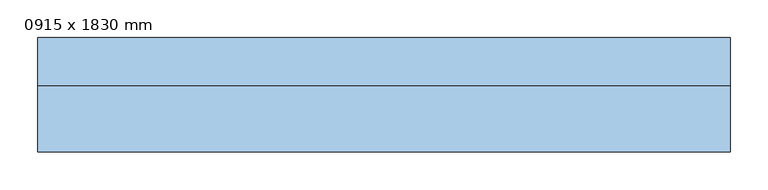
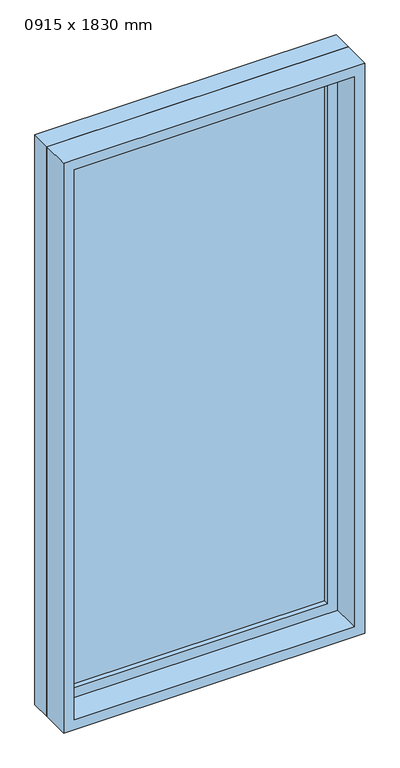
"""IFC4 building model written with IfcOpenShell, lengths in millimetres: window geometry, M_固定 : 0915 x 1830 mm."""

from ifc_helpers import new_model, si_unit, frame, origin, place, context, project, spatial, polyline, outline, extrude, source, transform, mapped, element, save


def window_0915_x_1830_mm_83c38f9d(model_context):
    return source(origin(), model_context, "Body", "SweptSolid", [
        extrude(outline(polyline([(-394.5, 53.5063725), (394.5, 53.5063725), (394.5, 41.5063725), (-394.5, 41.5063725), (-394.5, 53.5063725)])), frame((0.0, 0.0, 368.0), z_axis=(0.0, 0.0, 1.0), x_axis=(1.0, 0.0, 0.0)), (0.0, 0.0, 1.0), 1704.0),
        extrude(outline(polyline([(2116.0, -438.5), (324.0, -438.5), (324.0, 438.5), (2116.0, 438.5), (2116.0, -438.5)]), holes=[polyline([(2072.0, -394.5), (2072.0, 394.5), (368.0, 394.5), (368.0, -394.5), (2072.0, -394.5)])]), frame((0.0, 25.5063725, 0.0), z_axis=(0.0, 1.0, 0.0), x_axis=(0.0, 0.0, 1.0)), (0.0, 0.0, 1.0), 44.0),
        extrude(outline(polyline([(2135.0, -457.5), (305.0, -457.5), (305.0, 457.5), (2135.0, 457.5), (2135.0, -457.5)]), holes=[polyline([(2116.0, -438.5), (2116.0, 438.5), (324.0, 438.5), (324.0, -438.5), (2116.0, -438.5)])]), frame((0.0, 25.5063725, 0.0), z_axis=(0.0, 1.0, 0.0), x_axis=(0.0, 0.0, 1.0)), (0.0, 0.0, 1.0), 63.0),
        extrude(outline(polyline([(2135.0, -457.5), (305.0, -457.5), (305.0, 457.5), (2135.0, 457.5), (2135.0, -457.5)]), holes=[polyline([(2103.0, -425.5), (2103.0, 425.5), (337.0, 425.5), (337.0, -425.5), (2103.0, -425.5)])]), frame((0.0, -62.5063725, 0.0), z_axis=(0.0, 1.0, 0.0), x_axis=(0.0, 0.0, 1.0)), (0.0, 0.0, 1.0), 88.012745),
    ])


if __name__ == "__main__":
    model = new_model("IFC4")
    model_context = context("Model", 3, world=origin())
    ifc_project = project(units=[si_unit("LENGTHUNIT", "METRE", prefix="MILLI")], contexts=[model_context])
    site = spatial("IfcSite", under=ifc_project)
    building = spatial("IfcBuilding", under=site)
    placement = place(None, origin())
    window_0915_x_1830_mm_shape = window_0915_x_1830_mm_83c38f9d(model_context)
    element("IfcWindow", 1, ObjectType="M_固定 : 0915 x 1830 mm", at=placement, inside=building, context=model_context, shape_type="MappedRepresentation", body=[
        mapped(window_0915_x_1830_mm_shape, transform((0.0, 0.0, 0.0), x_axis=(1.0, 0.0, 0.0), y_axis=(0.0, 1.0, 0.0), z_axis=(0.0, 0.0, 1.0))),
    ])
    save(model, "model.ifc")
